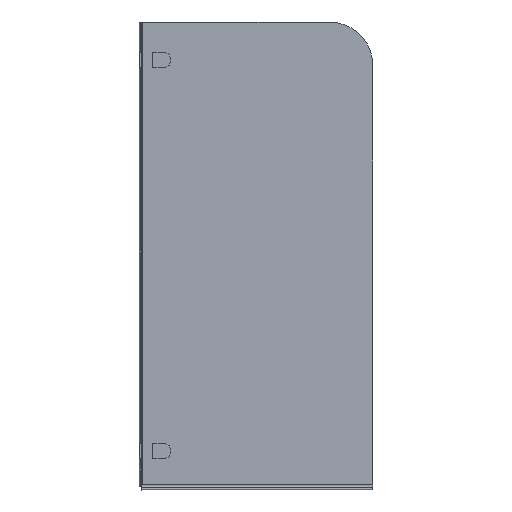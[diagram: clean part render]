
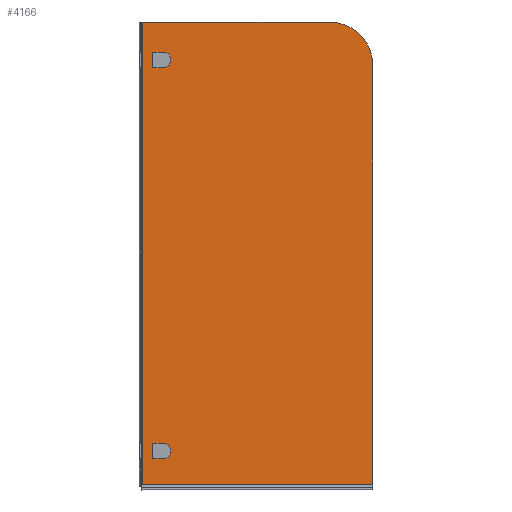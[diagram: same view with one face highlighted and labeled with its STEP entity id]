
A CAD part, front view. The second image highlights one B-rep face of the part: STEP entity #4166.
In plain terms, the highlighted planar face has unit normal (0, -1, 0).
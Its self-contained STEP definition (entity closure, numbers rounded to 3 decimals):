
#12=FACE_BOUND($,#449,.T.);
#13=FACE_BOUND($,#450,.T.);
#14=FACE_BOUND($,#451,.T.);
#58=PLANE($,#4439);
#449=EDGE_LOOP($,(#2851,#2852,#2853,#2854));
#450=EDGE_LOOP($,(#2855,#2856,#2857,#2858));
#451=EDGE_LOOP($,(#2859,#2860,#2861,#2862,#2863));
#677=LINE($,#6019,#1120);
#740=LINE($,#6266,#1183);
#741=LINE($,#6268,#1184);
#742=LINE($,#6271,#1185);
#743=LINE($,#6274,#1186);
#744=LINE($,#6276,#1187);
#745=LINE($,#6279,#1188);
#746=LINE($,#6281,#1189);
#747=LINE($,#6283,#1190);
#748=LINE($,#6286,#1191);
#1120=VECTOR($,#4820,1585.4);
#1183=VECTOR($,#4985,52.);
#1184=VECTOR($,#4986,23.);
#1185=VECTOR($,#4989,23.);
#1186=VECTOR($,#4990,52.);
#1187=VECTOR($,#4991,23.);
#1188=VECTOR($,#4994,23.);
#1189=VECTOR($,#4995,788.3);
#1190=VECTOR($,#4996,1435.4);
#1191=VECTOR($,#4999,638.3);
#1569=CIRCLE($,#4440,26.);
#1570=CIRCLE($,#4441,26.);
#1571=CIRCLE($,#4442,150.);
#1720=VERTEX_POINT($,#6016);
#1721=VERTEX_POINT($,#6018);
#1783=VERTEX_POINT($,#6264);
#1784=VERTEX_POINT($,#6265);
#1785=VERTEX_POINT($,#6267);
#1786=VERTEX_POINT($,#6269);
#1787=VERTEX_POINT($,#6272);
#1788=VERTEX_POINT($,#6273);
#1789=VERTEX_POINT($,#6275);
#1790=VERTEX_POINT($,#6277);
#1791=VERTEX_POINT($,#6280);
#1792=VERTEX_POINT($,#6282);
#1793=VERTEX_POINT($,#6284);
#2115=EDGE_CURVE($,#1720,#1721,#677,.T.);
#2210=EDGE_CURVE($,#1783,#1784,#740,.T.);
#2211=EDGE_CURVE($,#1785,#1783,#741,.T.);
#2212=EDGE_CURVE($,#1786,#1785,#1569,.T.);
#2213=EDGE_CURVE($,#1784,#1786,#742,.T.);
#2214=EDGE_CURVE($,#1787,#1788,#743,.T.);
#2215=EDGE_CURVE($,#1789,#1787,#744,.T.);
#2216=EDGE_CURVE($,#1790,#1789,#1570,.T.);
#2217=EDGE_CURVE($,#1788,#1790,#745,.T.);
#2218=EDGE_CURVE($,#1720,#1791,#746,.T.);
#2219=EDGE_CURVE($,#1791,#1792,#747,.T.);
#2220=EDGE_CURVE($,#1792,#1793,#1571,.T.);
#2221=EDGE_CURVE($,#1793,#1721,#748,.T.);
#2851=ORIENTED_EDGE($,*,*,#2210,.F.);
#2852=ORIENTED_EDGE($,*,*,#2211,.F.);
#2853=ORIENTED_EDGE($,*,*,#2212,.F.);
#2854=ORIENTED_EDGE($,*,*,#2213,.F.);
#2855=ORIENTED_EDGE($,*,*,#2214,.F.);
#2856=ORIENTED_EDGE($,*,*,#2215,.F.);
#2857=ORIENTED_EDGE($,*,*,#2216,.F.);
#2858=ORIENTED_EDGE($,*,*,#2217,.F.);
#2859=ORIENTED_EDGE($,*,*,#2115,.F.);
#2860=ORIENTED_EDGE($,*,*,#2218,.T.);
#2861=ORIENTED_EDGE($,*,*,#2219,.T.);
#2862=ORIENTED_EDGE($,*,*,#2220,.T.);
#2863=ORIENTED_EDGE($,*,*,#2221,.T.);
#4166=ADVANCED_FACE($,(#12,#13,#14),#58,.F.);
#4439=AXIS2_PLACEMENT_3D($,#6263,#4983,#4984);
#4440=AXIS2_PLACEMENT_3D($,#6270,#4987,#4988);
#4441=AXIS2_PLACEMENT_3D($,#6278,#4992,#4993);
#4442=AXIS2_PLACEMENT_3D($,#6285,#4997,#4998);
#4820=DIRECTION($,(0.,0.,1.));
#4983=DIRECTION('center_axis',(0.,1.,0.));
#4984=DIRECTION('ref_axis',(-1.,0.,0.));
#4985=DIRECTION($,(0.,0.,-1.));
#4986=DIRECTION($,(-1.,0.,0.));
#4987=DIRECTION('center_axis',(0.,-1.,0.));
#4988=DIRECTION('ref_axis',(0.,0.,
1.));
#4989=DIRECTION($,(1.,0.,0.));
#4990=DIRECTION($,(0.,0.,-1.));
#4991=DIRECTION($,(-1.,0.,0.));
#4992=DIRECTION('center_axis',(0.,-1.,0.));
#4993=DIRECTION('ref_axis',(0.,0.,
1.));
#4994=DIRECTION($,(1.,0.,0.));
#4995=DIRECTION($,(1.,0.,0.));
#4996=DIRECTION($,(0.,0.,1.));
#4997=DIRECTION('center_axis',(0.,-1.,0.));
#4998=DIRECTION('ref_axis',(0.707,0.,0.707));
#4999=DIRECTION($,(-1.,0.,0.));
#6016=CARTESIAN_POINT('',(-136.567,-88.044,39.544));
#6018=CARTESIAN_POINT('',(-136.567,-88.044,1624.944));
#6019=CARTESIAN_POINT($,(-136.567,-88.044,34.944));
#6263=CARTESIAN_POINT('Origin',(651.733,-88.044,34.944));
#6264=CARTESIAN_POINT('',(-90.267,-88.044,1520.944));
#6265=CARTESIAN_POINT('',(-90.267,-88.044,1468.944));
#6266=CARTESIAN_POINT($,(-90.267,-88.044,751.944));
#6267=CARTESIAN_POINT('',(-67.267,-88.044,1520.944));
#6268=CARTESIAN_POINT($,(280.733,-88.044,1520.944));
#6269=CARTESIAN_POINT('',(-67.267,-88.044,1468.944));
#6270=CARTESIAN_POINT('Origin',(-67.267,-88.044,1494.944));
#6271=CARTESIAN_POINT($,(292.233,-88.044,1468.944));
#6272=CARTESIAN_POINT('',(-90.267,-88.044,180.944));
#6273=CARTESIAN_POINT('',(-90.267,-88.044,128.944));
#6274=CARTESIAN_POINT($,(-90.267,-88.044,81.944));
#6275=CARTESIAN_POINT('',(-67.267,-88.044,180.944));
#6276=CARTESIAN_POINT($,(280.733,-88.044,180.944));
#6277=CARTESIAN_POINT('',(-67.267,-88.044,128.944));
#6278=CARTESIAN_POINT('Origin',(-67.267,-88.044,154.944));
#6279=CARTESIAN_POINT($,(292.233,-88.044,128.944));
#6280=CARTESIAN_POINT('',(651.733,-88.044,39.544));
#6281=CARTESIAN_POINT($,(-141.267,-88.044,39.544));
#6282=CARTESIAN_POINT('',(651.733,-88.044,1474.944));
#6283=CARTESIAN_POINT($,(651.733,-88.044,34.944));
#6284=CARTESIAN_POINT('',(501.733,-88.044,1624.944));
#6285=CARTESIAN_POINT('Origin',(501.733,-88.044,1474.944));
#6286=CARTESIAN_POINT($,(651.733,-88.044,1624.944));
